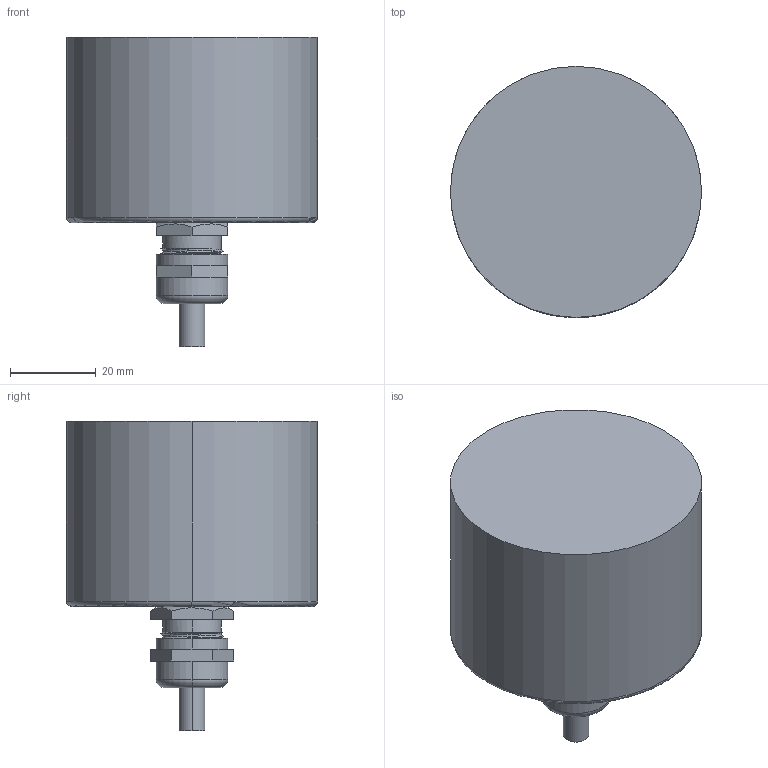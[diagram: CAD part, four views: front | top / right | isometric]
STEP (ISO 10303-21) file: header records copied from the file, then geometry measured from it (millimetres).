
FILE_DESCRIPTION (( 'STEP AP203' ), '1' );
FILE_NAME ('Drawing-OC-5-CA-432-SZM-12BNNN-Y-AAW-N.STEP', '2013-04-24T10:38:22', ( '' ), ( '' ), 'SwSTEP 2.0', 'SolidWorks 2006104', '' );
FILE_SCHEMA (( 'CONFIG_CONTROL_DESIGN' ));
Length unit declared in the file: millimetre
Products named in the file (1): Drawing-OC-5-CA-432-SZM-12BNNN-Y-AAW-N
Bounding box: 58.6 x 58.6 x 72.13 mm (x, y, z)
Volume: 14724.9 mm3; surface area: 28883.1 mm2
Topology: 9 solids, 9 shells, 324 faces, 788 edges, 480 vertices
Faces by surface type: cone 116, cylinder 86, plane 68, torus 50, bspline 4
Entity records: 11413 total; most frequent: CARTESIAN_POINT 3669, DIRECTION 1747, ORIENTED_EDGE 1564, EDGE_CURVE 782, AXIS2_PLACEMENT_3D 761, VERTEX_POINT 480, CIRCLE 440, EDGE_LOOP 342
